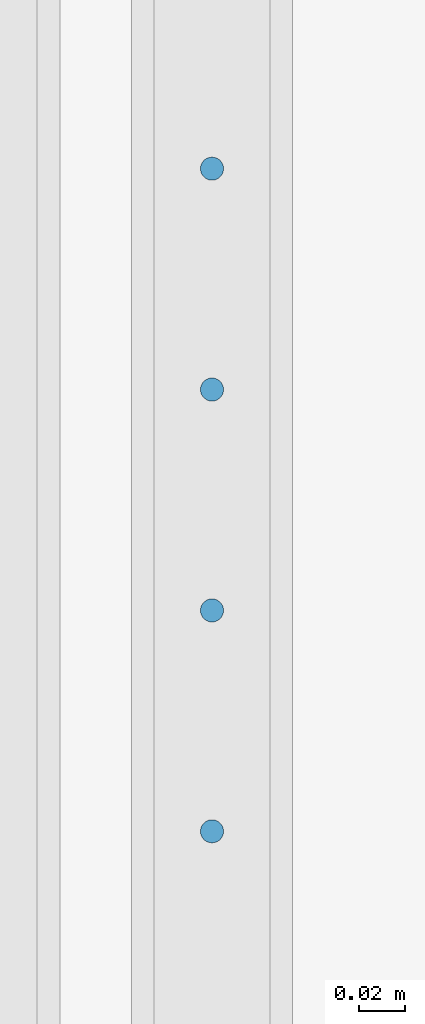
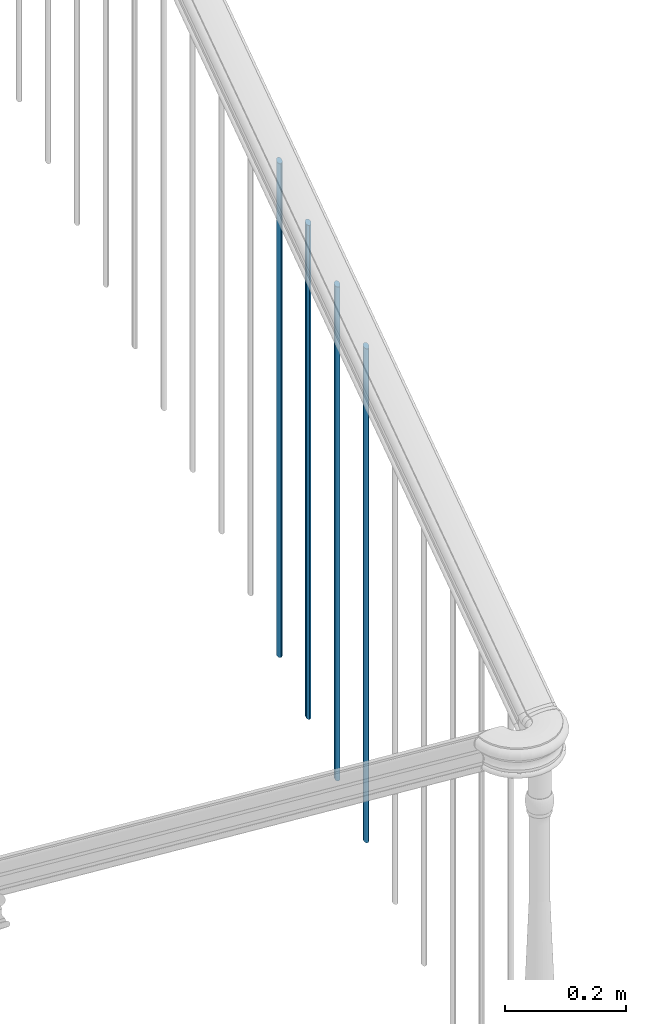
# One storey, part 14 of 77: 4 building element parts, 1 element without a shape of its own.
"""IFC2X3 building model written with IfcOpenShell, lengths in inches."""

from ifc_helpers import new_model, entity, si_unit, converted_unit, derived_unit, money_unit, direction, frame, origin_with_axes, place, context, subcontext, project, spatial, faceted_brep, material, type_object, element, aggregate, save


model = new_model("IFC2X3")

# Units and contexts
model_context = context("Model", 3, precision=0.000393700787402, world=origin_with_axes(), true_north=direction((0.0, 1.0)))
body_context = subcontext(model_context, "Body", "Model", "MODEL_VIEW")
ifc_project = project(units=[converted_unit("LENGTHUNIT", "INCH", entity("IfcPositiveLengthMeasure", 0.0254), si_unit("LENGTHUNIT", "METRE"), dimensions=[1, 0, 0, 0, 0, 0, 0]), converted_unit("AREAUNIT", "SQUARE_FOOT", entity("IfcPositiveLengthMeasure", 0.09290304), si_unit("AREAUNIT", "SQUARE_METRE"), dimensions=[2, 0, 0, 0, 0, 0, 0]), si_unit("PLANEANGLEUNIT", "RADIAN"), si_unit("SOLIDANGLEUNIT", "STERADIAN"), money_unit("USD"), converted_unit("TIMEUNIT", "Year", entity("IfcTimeMeasure", 31556926.0), si_unit("TIMEUNIT", "SECOND"), dimensions=[0, 0, 1, 0, 0, 0, 0]), si_unit("MASSUNIT", "GRAM", prefix="KILO"), si_unit("THERMODYNAMICTEMPERATUREUNIT", "DEGREE_CELSIUS"), si_unit("LUMINOUSINTENSITYUNIT", "LUMEN"), si_unit("ENERGYUNIT", "JOULE", prefix="MEGA"), derived_unit("THERMALCONDUCTANCEUNIT", [(si_unit("POWERUNIT", "WATT"), 1), (si_unit("LENGTHUNIT", "METRE"), -1), (si_unit("THERMODYNAMICTEMPERATUREUNIT", "KELVIN"), -1)]), derived_unit("SPECIFICHEATCAPACITYUNIT", [(si_unit("ENERGYUNIT", "JOULE"), 1), (si_unit("MASSUNIT", "GRAM", prefix="KILO"), -1), (si_unit("THERMODYNAMICTEMPERATUREUNIT", "KELVIN"), -1)]), derived_unit("MASSDENSITYUNIT", [(si_unit("MASSUNIT", "GRAM", prefix="KILO"), 1), (si_unit("VOLUMEUNIT", "CUBIC_METRE"), -1)])], contexts=[model_context])

# Site, building, storey
site_placement = place(None, origin_with_axes())
site = spatial("IfcSite", under=ifc_project, at=site_placement, Name="Site", CompositionType="ELEMENT")
building_placement = place(site_placement, origin_with_axes())
building = spatial("IfcBuilding", under=site, at=building_placement, Name="Building", CompositionType="ELEMENT")
storey_placement = place(building_placement, frame((0.0, 0.0, 127.952755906), z_axis=(0.0, 0.0, 1.0), x_axis=(1.0, 0.0, 0.0)))
storey = spatial("IfcBuildingStorey", under=building, at=storey_placement, Name="Second Floor", CompositionType="ELEMENT", Elevation=127.953)

# Railing, building element parts
railing_type = type_object("IfcRailingType", Name="Railing Type", PredefinedType="NOTDEFINED")
railing_placement = place(storey_placement, frame((682.459998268, 144.881628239, -56.1089279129), z_axis=(0.0, 0.0, 1.0), x_axis=(-1.0, 0.0, 0.0)))
railing = element("IfcRailing", 1, at=railing_placement, inside=storey, type_object=railing_type, Name="RAILING - 001", PredefinedType="NOTDEFINED")
ifc_material = material(Name="Steel - Structural")
building_element_part_1_placement = place(railing_placement, origin_with_axes())
building_element_part_1 = element("IfcBuildingElementPart", 2, at=building_element_part_1_placement, material=ifc_material, Name="Steel - Structural", context=body_context, shape_type="Brep", body=[
    faceted_brep([(-1.96850393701, 37.9260611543, 23.7104286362), (-1.93432122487, 37.9290517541, 23.7083460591), (-1.93432122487, 37.9290517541, 62.9209449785), (-1.96850393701, 37.9260611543, 62.9230275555), (-2.00268664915, 37.9290517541, 23.7083460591), (-2.03583073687, 37.9379326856, 23.7021616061), (-2.06692913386, 37.9524341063, 23.6920631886), (-2.09503693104, 37.9721153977, 23.6783576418), (-2.11930008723, 37.9963785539, 23.6614614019), (-2.1389813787, 38.0244863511, 23.6418878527), (-2.15348279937, 38.0555847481, 23.6202317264), (-2.16236373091, 38.0887288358, 23.5971510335), (-2.16535433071, 38.122911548, 23.5733470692), (-2.16236373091, 38.1570942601, 23.5495431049), (-2.15348279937, 38.1902383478, 23.526462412), (-2.1389813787, 38.2213367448, 23.5048062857), (-2.11930008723, 38.249444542, 23.4852327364), (-2.09503693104, 38.2737076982, 23.4683364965), (-2.06692913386, 38.2933889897, 23.4546309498), (-2.03583073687, 38.3078904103, 23.4445325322), (-2.00268664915, 38.3167713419, 23.4383480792), (-1.96850393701, 38.3197619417, 23.4362655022), (-1.93432122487, 38.3167713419, 23.4383480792), (-1.90117713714, 38.3078904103, 23.4445325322), (-1.87007874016, 38.2933889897, 23.4546309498), (-1.84197094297, 38.2737076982, 23.4683364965), (-1.81770778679, 38.249444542, 23.4852327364), (-1.79802649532, 38.2213367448, 23.5048062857), (-1.78352507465, 38.1902383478, 23.526462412), (-1.77464414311, 38.1570942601, 23.5495431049), (-1.77165354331, 38.122911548, 23.5733470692), (-1.77464414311, 38.0887288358, 23.5971510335), (-1.78352507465, 38.0555847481, 23.6202317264), (-1.79802649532, 38.0244863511, 23.6418878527), (-1.81770778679, 37.9963785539, 23.6614614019), (-1.84197094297, 37.9721153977, 23.6783576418), (-1.87007874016, 37.9524341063, 23.6920631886), (-1.90117713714, 37.9379326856, 23.7021616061), (-1.90117713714, 37.9379326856, 62.9147605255), (-1.87007874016, 37.9524341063, 62.9046621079), (-1.84197094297, 37.9721153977, 62.8909565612), (-1.81770778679, 37.9963785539, 62.8740603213), (-1.79802649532, 38.0244863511, 62.854486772), (-1.78352507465, 38.0555847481, 62.8328306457), (-1.77464414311, 38.0887288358, 62.8097499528), (-1.77165354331, 38.122911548, 62.7859459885), (-1.77464414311, 38.1570942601, 62.7621420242), (-1.78352507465, 38.1902383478, 62.7390613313), (-1.79802649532, 38.2213367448, 62.717405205), (-1.81770778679, 38.249444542, 62.6978316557), (-1.84197094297, 38.2737076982, 62.6809354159), (-1.87007874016, 38.2933889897, 62.6672298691), (-1.90117713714, 38.3078904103, 62.6571314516), (-1.93432122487, 38.3167713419, 62.6509469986), (-1.96850393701, 38.3197619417, 62.6488644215), (-2.00268664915, 38.3167713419, 62.6509469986), (-2.03583073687, 38.3078904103, 62.6571314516), (-2.06692913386, 38.2933889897, 62.6672298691), (-2.09503693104, 38.2737076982, 62.6809354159), (-2.11930008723, 38.249444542, 62.6978316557), (-2.1389813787, 38.2213367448, 62.717405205), (-2.15348279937, 38.1902383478, 62.7390613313), (-2.16236373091, 38.1570942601, 62.7621420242), (-2.16535433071, 38.122911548, 62.7859459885), (-2.16236373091, 38.0887288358, 62.8097499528), (-2.15348279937, 38.0555847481, 62.8328306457), (-2.1389813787, 38.0244863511, 62.854486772), (-2.11930008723, 37.9963785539, 62.8740603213), (-2.09503693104, 37.9721153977, 62.8909565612), (-2.06692913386, 37.9524341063, 62.9046621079), (-2.03583073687, 37.9379326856, 62.9147605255), (-2.00268664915, 37.9290517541, 62.9209449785)], [[[0, 1, 2, 3]], [[0, 4, 5, 6, 7, 8, 9, 10, 11, 12, 13, 14, 15, 16, 17, 18, 19, 20, 21, 22, 23, 24, 25, 26, 27, 28, 29, 30, 31, 32, 33, 34, 35, 36, 37, 1]], [[1, 37, 38, 2]], [[3, 2, 38, 39, 40, 41, 42, 43, 44, 45, 46, 47, 48, 49, 50, 51, 52, 53, 54, 55, 56, 57, 58, 59, 60, 61, 62, 63, 64, 65, 66, 67, 68, 69, 70, 71]], [[4, 0, 3, 71]], [[5, 4, 71, 70]], [[6, 5, 70, 69]], [[7, 6, 69, 68]], [[8, 7, 68, 67]], [[9, 8, 67, 66]], [[10, 9, 66, 65]], [[11, 10, 65, 64]], [[12, 11, 64, 63]], [[13, 12, 63, 62]], [[14, 13, 62, 61]], [[15, 14, 61, 60]], [[16, 15, 60, 59]], [[17, 16, 59, 58]], [[18, 17, 58, 57]], [[19, 18, 57, 56]], [[20, 19, 56, 55]], [[21, 20, 55, 54]], [[22, 21, 54, 53]], [[23, 22, 53, 52]], [[24, 23, 52, 51]], [[25, 24, 51, 50]], [[26, 25, 50, 49]], [[27, 26, 49, 48]], [[28, 27, 48, 47]], [[29, 28, 47, 46]], [[30, 29, 46, 45]], [[31, 30, 45, 44]], [[32, 31, 44, 43]], [[33, 32, 43, 42]], [[34, 33, 42, 41]], [[35, 34, 41, 40]], [[36, 35, 40, 39]], [[37, 36, 39, 38]]]),
])
building_element_part_2_placement = place(railing_placement, origin_with_axes())
building_element_part_2 = element("IfcBuildingElementPart", 3, at=building_element_part_2_placement, material=ifc_material, Name="Steel - Structural", context=body_context, shape_type="Brep", body=[
    faceted_brep([(-1.96850393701, 41.6873438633, 21.0911677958), (-1.93432122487, 41.6903344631, 21.0890852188), (-1.93432122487, 41.6903344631, 60.3016841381), (-1.96850393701, 41.6873438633, 60.3037667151), (-2.00268664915, 41.6903344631, 21.0890852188), (-2.03583073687, 41.6992153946, 21.0829007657), (-2.06692913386, 41.7137168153, 21.0728023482), (-2.09503693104, 41.7333981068, 21.0590968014), (-2.11930008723, 41.757661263, 21.0422005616), (-2.1389813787, 41.7857690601, 21.0226270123), (-2.15348279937, 41.8168674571, 21.000970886), (-2.16236373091, 41.8500115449, 20.9778901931), (-2.16535433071, 41.884194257, 20.9540862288), (-2.16236373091, 41.9183769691, 20.9302822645), (-2.15348279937, 41.9515210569, 20.9072015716), (-2.1389813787, 41.9826194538, 20.8855454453), (-2.11930008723, 42.010727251, 20.865971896), (-2.09503693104, 42.0349904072, 20.8490756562), (-2.06692913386, 42.0546716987, 20.8353701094), (-2.03583073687, 42.0691731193, 20.8252716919), (-2.00268664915, 42.0780540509, 20.8190872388), (-1.96850393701, 42.0810446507, 20.8170046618), (-1.93432122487, 42.0780540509, 20.8190872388), (-1.90117713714, 42.0691731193, 20.8252716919), (-1.87007874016, 42.0546716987, 20.8353701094), (-1.84197094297, 42.0349904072, 20.8490756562), (-1.81770778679, 42.010727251, 20.865971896), (-1.79802649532, 41.9826194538, 20.8855454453), (-1.78352507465, 41.9515210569, 20.9072015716), (-1.77464414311, 41.9183769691, 20.9302822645), (-1.77165354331, 41.884194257, 20.9540862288), (-1.77464414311, 41.8500115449, 20.9778901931), (-1.78352507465, 41.8168674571, 21.000970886), (-1.79802649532, 41.7857690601, 21.0226270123), (-1.81770778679, 41.757661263, 21.0422005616), (-1.84197094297, 41.7333981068, 21.0590968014), (-1.87007874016, 41.7137168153, 21.0728023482), (-1.90117713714, 41.6992153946, 21.0829007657), (-1.90117713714, 41.6992153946, 60.2954996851), (-1.87007874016, 41.7137168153, 60.2854012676), (-1.84197094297, 41.7333981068, 60.2716957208), (-1.81770778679, 41.757661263, 60.2547994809), (-1.79802649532, 41.7857690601, 60.2352259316), (-1.78352507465, 41.8168674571, 60.2135698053), (-1.77464414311, 41.8500115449, 60.1904891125), (-1.77165354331, 41.884194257, 60.1666851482), (-1.77464414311, 41.9183769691, 60.1428811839), (-1.78352507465, 41.9515210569, 60.119800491), (-1.79802649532, 41.9826194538, 60.0981443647), (-1.81770778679, 42.010727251, 60.0785708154), (-1.84197094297, 42.0349904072, 60.0616745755), (-1.87007874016, 42.0546716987, 60.0479690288), (-1.90117713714, 42.0691731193, 60.0378706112), (-1.93432122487, 42.0780540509, 60.0316861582), (-1.96850393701, 42.0810446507, 60.0296035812), (-2.00268664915, 42.0780540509, 60.0316861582), (-2.03583073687, 42.0691731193, 60.0378706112), (-2.06692913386, 42.0546716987, 60.0479690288), (-2.09503693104, 42.0349904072, 60.0616745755), (-2.11930008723, 42.010727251, 60.0785708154), (-2.1389813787, 41.9826194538, 60.0981443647), (-2.15348279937, 41.9515210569, 60.119800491), (-2.16236373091, 41.9183769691, 60.1428811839), (-2.16535433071, 41.884194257, 60.1666851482), (-2.16236373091, 41.8500115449, 60.1904891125), (-2.15348279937, 41.8168674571, 60.2135698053), (-2.1389813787, 41.7857690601, 60.2352259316), (-2.11930008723, 41.757661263, 60.2547994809), (-2.09503693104, 41.7333981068, 60.2716957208), (-2.06692913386, 41.7137168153, 60.2854012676), (-2.03583073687, 41.6992153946, 60.2954996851), (-2.00268664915, 41.6903344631, 60.3016841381)], [[[0, 1, 2, 3]], [[0, 4, 5, 6, 7, 8, 9, 10, 11, 12, 13, 14, 15, 16, 17, 18, 19, 20, 21, 22, 23, 24, 25, 26, 27, 28, 29, 30, 31, 32, 33, 34, 35, 36, 37, 1]], [[1, 37, 38, 2]], [[3, 2, 38, 39, 40, 41, 42, 43, 44, 45, 46, 47, 48, 49, 50, 51, 52, 53, 54, 55, 56, 57, 58, 59, 60, 61, 62, 63, 64, 65, 66, 67, 68, 69, 70, 71]], [[4, 0, 3, 71]], [[5, 4, 71, 70]], [[6, 5, 70, 69]], [[7, 6, 69, 68]], [[8, 7, 68, 67]], [[9, 8, 67, 66]], [[10, 9, 66, 65]], [[11, 10, 65, 64]], [[12, 11, 64, 63]], [[13, 12, 63, 62]], [[14, 13, 62, 61]], [[15, 14, 61, 60]], [[16, 15, 60, 59]], [[17, 16, 59, 58]], [[18, 17, 58, 57]], [[19, 18, 57, 56]], [[20, 19, 56, 55]], [[21, 20, 55, 54]], [[22, 21, 54, 53]], [[23, 22, 53, 52]], [[24, 23, 52, 51]], [[25, 24, 51, 50]], [[26, 25, 50, 49]], [[27, 26, 49, 48]], [[28, 27, 48, 47]], [[29, 28, 47, 46]], [[30, 29, 46, 45]], [[31, 30, 45, 44]], [[32, 31, 44, 43]], [[33, 32, 43, 42]], [[34, 33, 42, 41]], [[35, 34, 41, 40]], [[36, 35, 40, 39]], [[37, 36, 39, 38]]]),
])
building_element_part_3_placement = place(railing_placement, origin_with_axes())
building_element_part_3 = element("IfcBuildingElementPart", 4, at=building_element_part_3_placement, material=ifc_material, Name="Steel - Structural", context=body_context, shape_type="Brep", body=[
    faceted_brep([(-1.96850393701, 45.4486265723, 18.4719069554), (-1.93432122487, 45.4516171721, 18.4698243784), (-1.93432122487, 45.4516171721, 57.6824232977), (-1.96850393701, 45.4486265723, 57.6845058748), (-2.00268664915, 45.4516171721, 18.4698243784), (-2.03583073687, 45.4604981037, 18.4636399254), (-2.06692913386, 45.4749995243, 18.4535415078), (-2.09503693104, 45.4946808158, 18.4398359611), (-2.11930008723, 45.518943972, 18.4229397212), (-2.1389813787, 45.5470517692, 18.4033661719), (-2.15348279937, 45.5781501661, 18.3817100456), (-2.16236373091, 45.6112942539, 18.3586293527), (-2.16535433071, 45.645476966, 18.3348253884), (-2.16236373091, 45.6796596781, 18.3110214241), (-2.15348279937, 45.7128037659, 18.2879407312), (-2.1389813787, 45.7439021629, 18.2662846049), (-2.11930008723, 45.77200996, 18.2467110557), (-2.09503693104, 45.7962731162, 18.2298148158), (-2.06692913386, 45.8159544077, 18.216109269), (-2.03583073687, 45.8304558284, 18.2060108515), (-2.00268664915, 45.8393367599, 18.1998263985), (-1.96850393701, 45.8423273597, 18.1977438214), (-1.93432122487, 45.8393367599, 18.1998263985), (-1.90117713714, 45.8304558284, 18.2060108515), (-1.87007874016, 45.8159544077, 18.216109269), (-1.84197094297, 45.7962731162, 18.2298148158), (-1.81770778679, 45.77200996, 18.2467110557), (-1.79802649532, 45.7439021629, 18.2662846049), (-1.78352507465, 45.7128037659, 18.2879407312), (-1.77464414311, 45.6796596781, 18.3110214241), (-1.77165354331, 45.645476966, 18.3348253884), (-1.77464414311, 45.6112942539, 18.3586293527), (-1.78352507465, 45.5781501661, 18.3817100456), (-1.79802649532, 45.5470517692, 18.4033661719), (-1.81770778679, 45.518943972, 18.4229397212), (-1.84197094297, 45.4946808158, 18.4398359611), (-1.87007874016, 45.4749995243, 18.4535415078), (-1.90117713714, 45.4604981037, 18.4636399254), (-1.90117713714, 45.4604981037, 57.6762388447), (-1.87007874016, 45.4749995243, 57.6661404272), (-1.84197094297, 45.4946808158, 57.6524348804), (-1.81770778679, 45.518943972, 57.6355386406), (-1.79802649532, 45.5470517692, 57.6159650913), (-1.78352507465, 45.5781501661, 57.594308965), (-1.77464414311, 45.6112942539, 57.5712282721), (-1.77165354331, 45.645476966, 57.5474243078), (-1.77464414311, 45.6796596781, 57.5236203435), (-1.78352507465, 45.7128037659, 57.5005396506), (-1.79802649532, 45.7439021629, 57.4788835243), (-1.81770778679, 45.77200996, 57.459309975), (-1.84197094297, 45.7962731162, 57.4424137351), (-1.87007874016, 45.8159544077, 57.4287081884), (-1.90117713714, 45.8304558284, 57.4186097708), (-1.93432122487, 45.8393367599, 57.4124253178), (-1.96850393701, 45.8423273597, 57.4103427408), (-2.00268664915, 45.8393367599, 57.4124253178), (-2.03583073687, 45.8304558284, 57.4186097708), (-2.06692913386, 45.8159544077, 57.4287081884), (-2.09503693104, 45.7962731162, 57.4424137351), (-2.11930008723, 45.77200996, 57.459309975), (-2.1389813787, 45.7439021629, 57.4788835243), (-2.15348279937, 45.7128037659, 57.5005396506), (-2.16236373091, 45.6796596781, 57.5236203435), (-2.16535433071, 45.645476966, 57.5474243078), (-2.16236373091, 45.6112942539, 57.5712282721), (-2.15348279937, 45.5781501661, 57.594308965), (-2.1389813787, 45.5470517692, 57.6159650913), (-2.11930008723, 45.518943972, 57.6355386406), (-2.09503693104, 45.4946808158, 57.6524348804), (-2.06692913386, 45.4749995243, 57.6661404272), (-2.03583073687, 45.4604981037, 57.6762388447), (-2.00268664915, 45.4516171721, 57.6824232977)], [[[0, 1, 2, 3]], [[0, 4, 5, 6, 7, 8, 9, 10, 11, 12, 13, 14, 15, 16, 17, 18, 19, 20, 21, 22, 23, 24, 25, 26, 27, 28, 29, 30, 31, 32, 33, 34, 35, 36, 37, 1]], [[1, 37, 38, 2]], [[3, 2, 38, 39, 40, 41, 42, 43, 44, 45, 46, 47, 48, 49, 50, 51, 52, 53, 54, 55, 56, 57, 58, 59, 60, 61, 62, 63, 64, 65, 66, 67, 68, 69, 70, 71]], [[4, 0, 3, 71]], [[5, 4, 71, 70]], [[6, 5, 70, 69]], [[7, 6, 69, 68]], [[8, 7, 68, 67]], [[9, 8, 67, 66]], [[10, 9, 66, 65]], [[11, 10, 65, 64]], [[12, 11, 64, 63]], [[13, 12, 63, 62]], [[14, 13, 62, 61]], [[15, 14, 61, 60]], [[16, 15, 60, 59]], [[17, 16, 59, 58]], [[18, 17, 58, 57]], [[19, 18, 57, 56]], [[20, 19, 56, 55]], [[21, 20, 55, 54]], [[22, 21, 54, 53]], [[23, 22, 53, 52]], [[24, 23, 52, 51]], [[25, 24, 51, 50]], [[26, 25, 50, 49]], [[27, 26, 49, 48]], [[28, 27, 48, 47]], [[29, 28, 47, 46]], [[30, 29, 46, 45]], [[31, 30, 45, 44]], [[32, 31, 44, 43]], [[33, 32, 43, 42]], [[34, 33, 42, 41]], [[35, 34, 41, 40]], [[36, 35, 40, 39]], [[37, 36, 39, 38]]]),
])
building_element_part_4_placement = place(railing_placement, origin_with_axes())
building_element_part_4 = element("IfcBuildingElementPart", 5, at=building_element_part_4_placement, material=ifc_material, Name="Steel - Structural", context=body_context, shape_type="Brep", body=[
    faceted_brep([(-1.96850393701, 49.2099092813, 15.852646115), (-1.93432122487, 49.2128998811, 15.850563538), (-1.93432122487, 49.2128998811, 55.0631624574), (-1.96850393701, 49.2099092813, 55.0652450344), (-2.00268664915, 49.2128998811, 15.850563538), (-2.03583073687, 49.2217808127, 15.844379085), (-2.06692913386, 49.2362822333, 15.8342806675), (-2.09503693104, 49.2559635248, 15.8205751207), (-2.11930008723, 49.280226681, 15.8036788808), (-2.1389813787, 49.3083344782, 15.7841053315), (-2.15348279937, 49.3394328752, 15.7624492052), (-2.16236373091, 49.3725769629, 15.7393685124), (-2.16535433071, 49.406759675, 15.7155645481), (-2.16236373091, 49.4409423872, 15.6917605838), (-2.15348279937, 49.4740864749, 15.6686798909), (-2.1389813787, 49.5051848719, 15.6470237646), (-2.11930008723, 49.5332926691, 15.6274502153), (-2.09503693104, 49.5575558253, 15.6105539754), (-2.06692913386, 49.5772371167, 15.5968484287), (-2.03583073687, 49.5917385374, 15.5867500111), (-2.00268664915, 49.6006194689, 15.5805655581), (-1.96850393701, 49.6036100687, 15.5784829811), (-1.93432122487, 49.6006194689, 15.5805655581), (-1.90117713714, 49.5917385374, 15.5867500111), (-1.87007874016, 49.5772371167, 15.5968484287), (-1.84197094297, 49.5575558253, 15.6105539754), (-1.81770778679, 49.5332926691, 15.6274502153), (-1.79802649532, 49.5051848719, 15.6470237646), (-1.78352507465, 49.4740864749, 15.6686798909), (-1.77464414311, 49.4409423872, 15.6917605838), (-1.77165354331, 49.406759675, 15.7155645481), (-1.77464414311, 49.3725769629, 15.7393685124), (-1.78352507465, 49.3394328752, 15.7624492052), (-1.79802649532, 49.3083344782, 15.7841053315), (-1.81770778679, 49.280226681, 15.8036788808), (-1.84197094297, 49.2559635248, 15.8205751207), (-1.87007874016, 49.2362822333, 15.8342806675), (-1.90117713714, 49.2217808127, 15.844379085), (-1.90117713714, 49.2217808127, 55.0569780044), (-1.87007874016, 49.2362822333, 55.0468795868), (-1.84197094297, 49.2559635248, 55.0331740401), (-1.81770778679, 49.280226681, 55.0162778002), (-1.79802649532, 49.3083344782, 54.9967042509), (-1.78352507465, 49.3394328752, 54.9750481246), (-1.77464414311, 49.3725769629, 54.9519674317), (-1.77165354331, 49.406759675, 54.9281634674), (-1.77464414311, 49.4409423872, 54.9043595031), (-1.78352507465, 49.4740864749, 54.8812788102), (-1.79802649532, 49.5051848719, 54.8596226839), (-1.81770778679, 49.5332926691, 54.8400491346), (-1.84197094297, 49.5575558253, 54.8231528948), (-1.87007874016, 49.5772371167, 54.809447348), (-1.90117713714, 49.5917385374, 54.7993489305), (-1.93432122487, 49.6006194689, 54.7931644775), (-1.96850393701, 49.6036100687, 54.7910819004), (-2.00268664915, 49.6006194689, 54.7931644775), (-2.03583073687, 49.5917385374, 54.7993489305), (-2.06692913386, 49.5772371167, 54.809447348), (-2.09503693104, 49.5575558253, 54.8231528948), (-2.11930008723, 49.5332926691, 54.8400491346), (-2.1389813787, 49.5051848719, 54.8596226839), (-2.15348279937, 49.4740864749, 54.8812788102), (-2.16236373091, 49.4409423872, 54.9043595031), (-2.16535433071, 49.406759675, 54.9281634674), (-2.16236373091, 49.3725769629, 54.9519674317), (-2.15348279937, 49.3394328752, 54.9750481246), (-2.1389813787, 49.3083344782, 54.9967042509), (-2.11930008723, 49.280226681, 55.0162778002), (-2.09503693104, 49.2559635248, 55.0331740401), (-2.06692913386, 49.2362822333, 55.0468795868), (-2.03583073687, 49.2217808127, 55.0569780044), (-2.00268664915, 49.2128998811, 55.0631624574)], [[[0, 1, 2, 3]], [[0, 4, 5, 6, 7, 8, 9, 10, 11, 12, 13, 14, 15, 16, 17, 18, 19, 20, 21, 22, 23, 24, 25, 26, 27, 28, 29, 30, 31, 32, 33, 34, 35, 36, 37, 1]], [[1, 37, 38, 2]], [[3, 2, 38, 39, 40, 41, 42, 43, 44, 45, 46, 47, 48, 49, 50, 51, 52, 53, 54, 55, 56, 57, 58, 59, 60, 61, 62, 63, 64, 65, 66, 67, 68, 69, 70, 71]], [[4, 0, 3, 71]], [[5, 4, 71, 70]], [[6, 5, 70, 69]], [[7, 6, 69, 68]], [[8, 7, 68, 67]], [[9, 8, 67, 66]], [[10, 9, 66, 65]], [[11, 10, 65, 64]], [[12, 11, 64, 63]], [[13, 12, 63, 62]], [[14, 13, 62, 61]], [[15, 14, 61, 60]], [[16, 15, 60, 59]], [[17, 16, 59, 58]], [[18, 17, 58, 57]], [[19, 18, 57, 56]], [[20, 19, 56, 55]], [[21, 20, 55, 54]], [[22, 21, 54, 53]], [[23, 22, 53, 52]], [[24, 23, 52, 51]], [[25, 24, 51, 50]], [[26, 25, 50, 49]], [[27, 26, 49, 48]], [[28, 27, 48, 47]], [[29, 28, 47, 46]], [[30, 29, 46, 45]], [[31, 30, 45, 44]], [[32, 31, 44, 43]], [[33, 32, 43, 42]], [[34, 33, 42, 41]], [[35, 34, 41, 40]], [[36, 35, 40, 39]], [[37, 36, 39, 38]]]),
])
aggregate(railing, [building_element_part_1, building_element_part_2, building_element_part_3, building_element_part_4])

save(model, "model.ifc")
